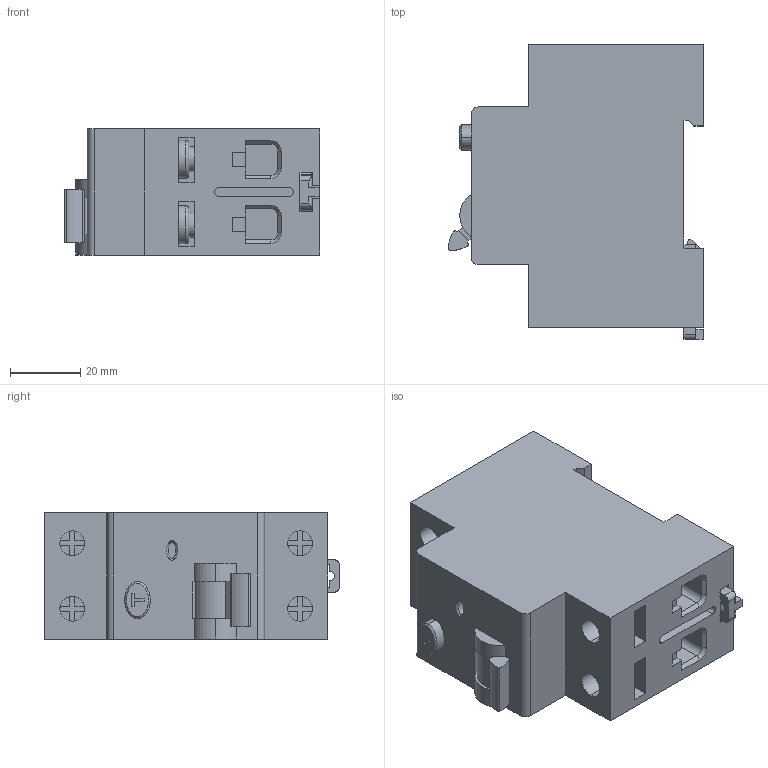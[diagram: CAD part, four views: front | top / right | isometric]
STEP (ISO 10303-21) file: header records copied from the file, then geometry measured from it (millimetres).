
FILE_DESCRIPTION (( 'STEP AP214' ), '1' );
FILE_NAME ('Aardlekschakelaar 2P.STEP', '2025-07-29T13:02:08', ( '' ), ( '' ), 'SwSTEP 2.0', 'SolidWorks 2025', '' );
FILE_SCHEMA (( 'AUTOMOTIVE_DESIGN' ));
Length unit declared in the file: millimetre
Products named in the file (3): CAD #8; Lipje algemeen 2; Aardlekschakelaar 2P
Assembly tree (2 placements, depth 2):
  Aardlekschakelaar 2P
    CAD #8
    Lipje algemeen 2
Bounding box: 72.86 x 84.15 x 36 mm (x, y, z)
Volume: 155990.2 mm3; surface area: 27948.7 mm2
Topology: 2 solids, 2 shells, 368 faces, 956 edges, 612 vertices
Faces by surface type: plane 274, cylinder 70, bspline 8, torus 8, cone 8
Entity records: 13325 total; most frequent: CARTESIAN_POINT 4120, ORIENTED_EDGE 1912, DIRECTION 1870, EDGE_CURVE 956, LINE 732, VECTOR 732, VERTEX_POINT 612, AXIS2_PLACEMENT_3D 569
